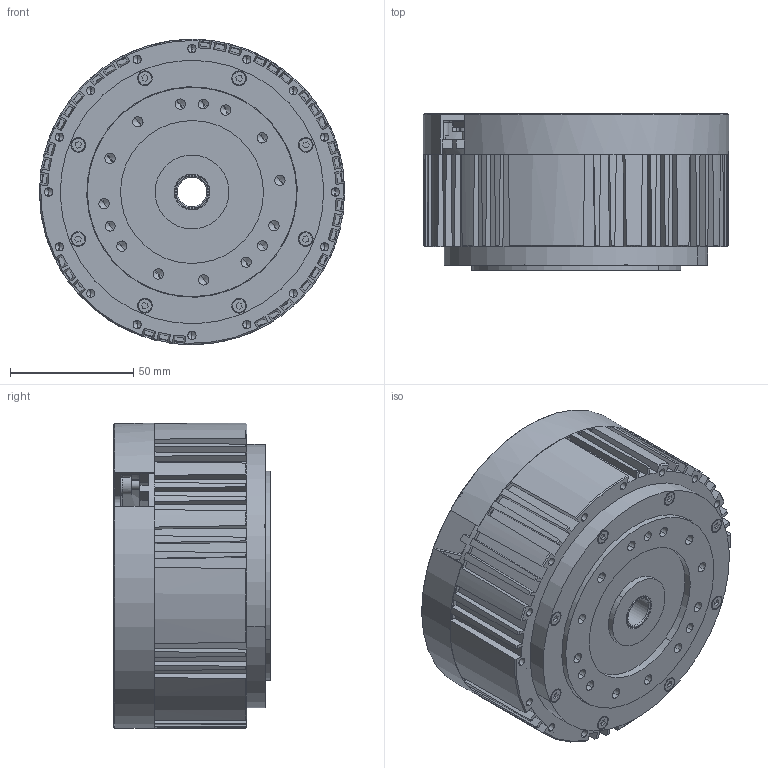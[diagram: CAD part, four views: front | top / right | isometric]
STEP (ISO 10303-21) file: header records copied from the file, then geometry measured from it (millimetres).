
FILE_DESCRIPTION (( 'STEP AP203' ), '1' );
FILE_NAME ('RMD-X10-P20-200-E.STEP', '2026-04-30T02:09:48', ( '' ), ( '' ), 'SwSTEP 2.0', 'SolidWorks 2020', '' );
FILE_SCHEMA (( 'CONFIG_CONTROL_DESIGN' ));
Length unit declared in the file: millimetre
Products named in the file (12): XMT.110.012-嘐隅楊擘裔啣 B; 熬厒ん郪璃; 8MT.034.039-隅赽盓殤 B; 囀鞠褒麥芛蹟佪M3X14; XMT.109.027-怀堤楊擘 A0; 8MT.215.033-揤盄啣-C_Default<偌樓馱>; XMT.112.017-媼晤粣 A1; 8MT.013.164-儂裔-A5; 8MT.013.163-驱动器后盖 A3; RMD-X10-P20-200-E; M4x14; ﾂﾝﾋｿM2.5｡ﾁ8
Assembly tree (27 placements, depth 3):
  RMD-X10-P20-200-E
    熬厒ん郪璃
      XMT.109.027-怀堤楊擘 A0
    8MT.013.163-驱动器后盖 A3
    8MT.013.164-儂裔-A5
    M4x14  x4
    XMT.110.012-嘐隅楊擘裔啣 B
    XMT.112.017-媼晤粣 A1
    ﾂﾝﾋｿM2.5｡ﾁ8  x7
    囀鞠褒麥芛蹟佪M3X14  x8
    8MT.215.033-揤盄啣-C_Default<偌樓馱>
    8MT.034.039-隅赽盓殤 B
Bounding box: 123.99 x 63.5 x 124 mm (x, y, z)
Volume: 218922.1 mm3; surface area: 177336.7 mm2
Topology: 26 solids, 26 shells, 1894 faces, 4985 edges, 3116 vertices
Faces by surface type: cylinder 924, plane 553, cone 323, torus 84, bspline 10
Entity records: 53832 total; most frequent: CARTESIAN_POINT 9714, DIRECTION 9589, ORIENTED_EDGE 8674, EDGE_CURVE 4337, AXIS2_PLACEMENT_3D 3814, VERTEX_POINT 2781, CIRCLE 2148, VECTOR 1961
